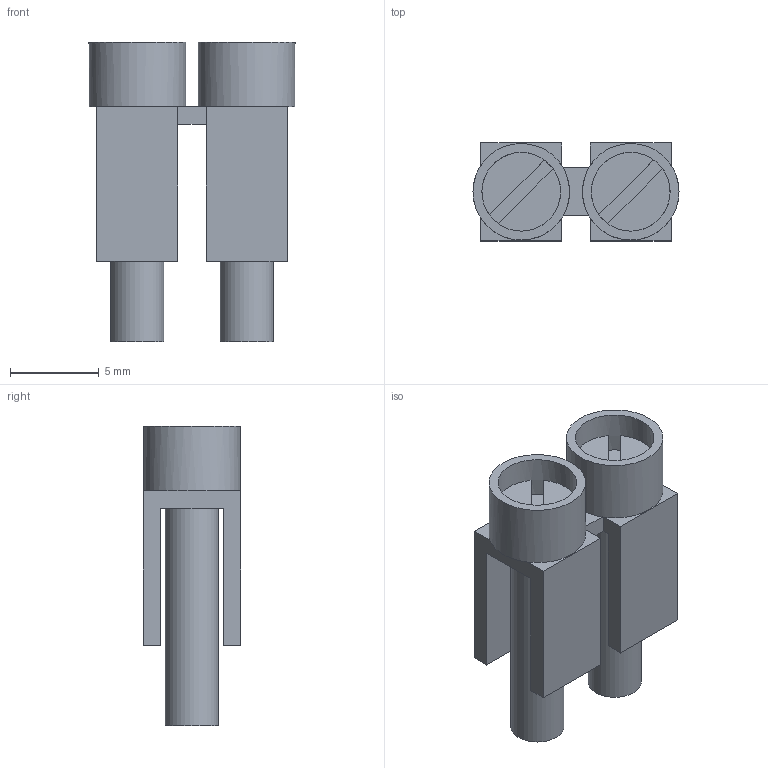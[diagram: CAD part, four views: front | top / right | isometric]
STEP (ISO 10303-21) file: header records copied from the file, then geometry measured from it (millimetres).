
FILE_DESCRIPTION( ('This file contains a STEP AP42 implementation' ,'as created by ZW3D STEP Interface translator.') ,'2;1' );
FILE_NAME( 'FBI 2-6.stp' ,'23 614. 9 8 0', (''), ('ZWCAD Software Co.'), 'Version 1.0', 'ZW3D to STEP translator', '' );
FILE_SCHEMA(('AUTOMOTIVE_DESIGN { 1 0 10303 214 1 1 1 1 }'));
Length unit declared in the file: millimetre
Products named in the file (2): 0; 0203438
Bounding box: 11.57 x 5.5 x 16.8 mm (x, y, z)
Volume: 484.2 mm3; surface area: 904.1 mm2
Topology: 1 solids, 1 shells, 52 faces, 131 edges, 85 vertices
Faces by surface type: plane 46, cylinder 6
Full cylindrical faces by diameter (mm): 3 x2, 4.425 x2, 5.425 x2
Entity records: 1645 total; most frequent: DIRECTION 274, CARTESIAN_POINT 269, ORIENTED_EDGE 262, EDGE_CURVE 131, VECTOR 94, LINE 94, AXIS2_PLACEMENT_3D 90, VERTEX_POINT 85
